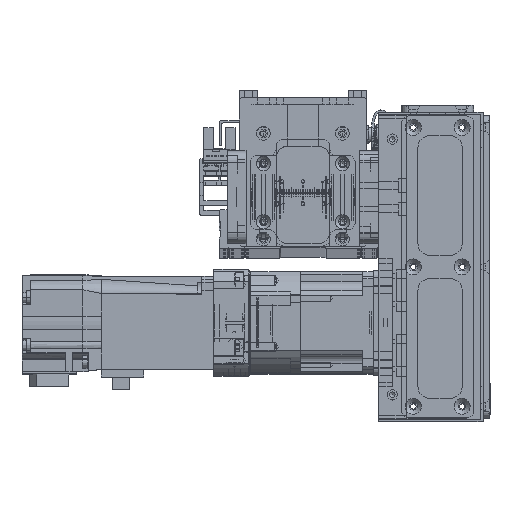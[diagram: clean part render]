
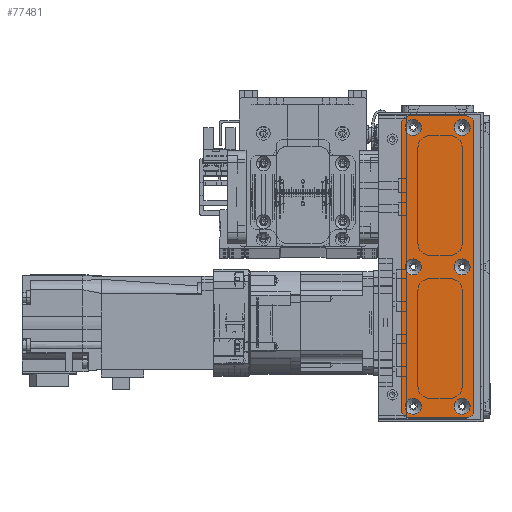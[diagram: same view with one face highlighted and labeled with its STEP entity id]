
A CAD part, top view. The second image highlights one B-rep face of the part: STEP entity #77481.
In plain terms, the highlighted planar face has unit normal (0, 0, 1).
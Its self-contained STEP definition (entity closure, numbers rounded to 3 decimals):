
#1877=FACE_BOUND('',#13336,.T.);
#1878=FACE_BOUND('',#13337,.T.);
#1879=FACE_BOUND('',#13338,.T.);
#1880=FACE_BOUND('',#13339,.T.);
#1881=FACE_BOUND('',#13340,.T.);
#1882=FACE_BOUND('',#13341,.T.);
#4542=PLANE('',#85310);
#8578=FACE_OUTER_BOUND('',#13335,.T.);
#13335=EDGE_LOOP('',(#72378,#72379,#72380,#72381,#72382,#72383,#72384,#72385));
#13336=EDGE_LOOP('',(#72386));
#13337=EDGE_LOOP('',(#72387));
#13338=EDGE_LOOP('',(#72388));
#13339=EDGE_LOOP('',(#72389));
#13340=EDGE_LOOP('',(#72390));
#13341=EDGE_LOOP('',(#72391));
#16571=CIRCLE('',#85264,3.45);
#16574=CIRCLE('',#85269,3.45);
#16577=CIRCLE('',#85274,3.45);
#16580=CIRCLE('',#85279,3.45);
#16583=CIRCLE('',#85284,3.45);
#16586=CIRCLE('',#85289,3.45);
#16593=CIRCLE('',#85299,3.);
#16594=CIRCLE('',#85302,3.);
#16595=CIRCLE('',#85305,3.);
#16596=CIRCLE('',#85308,3.);
#24291=LINE('',#134333,#31995);
#24294=LINE('',#134341,#31998);
#24297=LINE('',#134349,#32001);
#24300=LINE('',#134356,#32004);
#31995=VECTOR('',#106927,10.);
#31998=VECTOR('',#106936,10.);
#32001=VECTOR('',#106945,10.);
#32004=VECTOR('',#106954,10.);
#39229=VERTEX_POINT('',#134249);
#39232=VERTEX_POINT('',#134259);
#39235=VERTEX_POINT('',#134269);
#39238=VERTEX_POINT('',#134279);
#39241=VERTEX_POINT('',#134289);
#39244=VERTEX_POINT('',#134299);
#39255=VERTEX_POINT('',#134326);
#39256=VERTEX_POINT('',#134328);
#39257=VERTEX_POINT('',#134332);
#39258=VERTEX_POINT('',#134336);
#39259=VERTEX_POINT('',#134340);
#39260=VERTEX_POINT('',#134344);
#39261=VERTEX_POINT('',#134348);
#39262=VERTEX_POINT('',#134352);
#50252=EDGE_CURVE('',#39229,#39229,#16571,.T.);
#50257=EDGE_CURVE('',#39232,#39232,#16574,.T.);
#50262=EDGE_CURVE('',#39235,#39235,#16577,.T.);
#50267=EDGE_CURVE('',#39238,#39238,#16580,.T.);
#50272=EDGE_CURVE('',#39241,#39241,#16583,.T.);
#50277=EDGE_CURVE('',#39244,#39244,#16586,.T.);
#50291=EDGE_CURVE('',#39256,#39255,#16593,.T.);
#50293=EDGE_CURVE('',#39257,#39256,#24291,.T.);
#50295=EDGE_CURVE('',#39258,#39257,#16594,.T.);
#50297=EDGE_CURVE('',#39259,#39258,#24294,.T.);
#50299=EDGE_CURVE('',#39260,#39259,#16595,.T.);
#50301=EDGE_CURVE('',#39261,#39260,#24297,.T.);
#50303=EDGE_CURVE('',#39262,#39261,#16596,.T.);
#50305=EDGE_CURVE('',#39255,#39262,#24300,.T.);
#72378=ORIENTED_EDGE('',*,*,#50305,.T.);
#72379=ORIENTED_EDGE('',*,*,#50303,.T.);
#72380=ORIENTED_EDGE('',*,*,#50301,.T.);
#72381=ORIENTED_EDGE('',*,*,#50299,.T.);
#72382=ORIENTED_EDGE('',*,*,#50297,.T.);
#72383=ORIENTED_EDGE('',*,*,#50295,.T.);
#72384=ORIENTED_EDGE('',*,*,#50293,.T.);
#72385=ORIENTED_EDGE('',*,*,#50291,.T.);
#72386=ORIENTED_EDGE('',*,*,#50252,.T.);
#72387=ORIENTED_EDGE('',*,*,#50257,.T.);
#72388=ORIENTED_EDGE('',*,*,#50262,.T.);
#72389=ORIENTED_EDGE('',*,*,#50267,.T.);
#72390=ORIENTED_EDGE('',*,*,#50272,.T.);
#72391=ORIENTED_EDGE('',*,*,#50277,.T.);
#77481=ADVANCED_FACE('',(#8578,#1877,#1878,#1879,#1880,#1881,#1882),#4542,
 .T.);
#85264=AXIS2_PLACEMENT_3D('',#134250,#106835,#106836);
#85269=AXIS2_PLACEMENT_3D('',#134260,#106847,#106848);
#85274=AXIS2_PLACEMENT_3D('',#134270,#106859,#106860);
#85279=AXIS2_PLACEMENT_3D('',#134280,#106871,#106872);
#85284=AXIS2_PLACEMENT_3D('',#134290,#106883,#106884);
#85289=AXIS2_PLACEMENT_3D('',#134300,#106895,#106896);
#85299=AXIS2_PLACEMENT_3D('',#134329,#106922,#106923);
#85302=AXIS2_PLACEMENT_3D('',#134337,#106931,#106932);
#85305=AXIS2_PLACEMENT_3D('',#134345,#106940,#106941);
#85308=AXIS2_PLACEMENT_3D('',#134353,#106949,#106950);
#85310=AXIS2_PLACEMENT_3D('',#134357,#106955,#106956);
#106835=DIRECTION('center_axis',(0.,0.,-1.));
#106836=DIRECTION('ref_axis',(1.,0.,0.));
#106847=DIRECTION('center_axis',(0.,0.,-1.));
#106848=DIRECTION('ref_axis',(1.,0.,0.));
#106859=DIRECTION('center_axis',(0.,0.,-1.));
#106860=DIRECTION('ref_axis',(1.,0.,0.));
#106871=DIRECTION('center_axis',(0.,0.,-1.));
#106872=DIRECTION('ref_axis',(1.,0.,0.));
#106883=DIRECTION('center_axis',(0.,0.,-1.));
#106884=DIRECTION('ref_axis',(1.,0.,0.));
#106895=DIRECTION('center_axis',(0.,0.,-1.));
#106896=DIRECTION('ref_axis',(1.,0.,0.));
#106922=DIRECTION('center_axis',(0.,0.,1.));
#106923=DIRECTION('ref_axis',(0.,1.,0.));
#106927=DIRECTION('',(-1.,0.,0.));
#106931=DIRECTION('center_axis',(0.,0.,1.));
#106932=DIRECTION('ref_axis',(1.,0.,0.));
#106936=DIRECTION('',(0.,1.,0.));
#106940=DIRECTION('center_axis',(0.,0.,1.));
#106941=DIRECTION('ref_axis',(0.,-1.,0.));
#106945=DIRECTION('',(1.,0.,0.));
#106949=DIRECTION('center_axis',(0.,0.,1.));
#106950=DIRECTION('ref_axis',(-1.,0.,0.));
#106954=DIRECTION('',(0.,-1.,0.));
#106955=DIRECTION('center_axis',(0.,0.,1.));
#106956=DIRECTION('ref_axis',(1.,0.,0.));
#134249=CARTESIAN_POINT('',(-3.45,10.5,1.5));
#134250=CARTESIAN_POINT('Origin',(0.,10.5,1.5));
#134259=CARTESIAN_POINT('',(56.55,-10.5,1.5));
#134260=CARTESIAN_POINT('Origin',(60.,-10.5,1.5));
#134269=CARTESIAN_POINT('',(-63.45,10.5,1.5));
#134270=CARTESIAN_POINT('Origin',(-60.,10.5,1.5));
#134279=CARTESIAN_POINT('',(56.55,10.5,1.5));
#134280=CARTESIAN_POINT('Origin',(60.,10.5,1.5));
#134289=CARTESIAN_POINT('',(-63.45,-10.5,1.5));
#134290=CARTESIAN_POINT('Origin',(-60.,-10.5,1.5));
#134299=CARTESIAN_POINT('',(-3.45,-10.5,1.5));
#134300=CARTESIAN_POINT('Origin',(0.,-10.5,1.5));
#134326=CARTESIAN_POINT('',(-65.,12.5,1.5));
#134328=CARTESIAN_POINT('',(-62.,15.5,1.5));
#134329=CARTESIAN_POINT('Origin',(-62.,12.5,1.5));
#134332=CARTESIAN_POINT('',(62.,15.5,1.5));
#134333=CARTESIAN_POINT('',(62.,15.5,1.5));
#134336=CARTESIAN_POINT('',(65.,12.5,1.5));
#134337=CARTESIAN_POINT('Origin',(62.,12.5,1.5));
#134340=CARTESIAN_POINT('',(65.,-12.5,1.5));
#134341=CARTESIAN_POINT('',(65.,-12.5,1.5));
#134344=CARTESIAN_POINT('',(62.,-15.5,1.5));
#134345=CARTESIAN_POINT('Origin',(62.,-12.5,1.5));
#134348=CARTESIAN_POINT('',(-62.,-15.5,1.5));
#134349=CARTESIAN_POINT('',(-62.,-15.5,1.5));
#134352=CARTESIAN_POINT('',(-65.,-12.5,1.5));
#134353=CARTESIAN_POINT('Origin',(-62.,-12.5,1.5));
#134356=CARTESIAN_POINT('',(-65.,12.5,1.5));
#134357=CARTESIAN_POINT('Origin',(0.,0.,
1.5));
